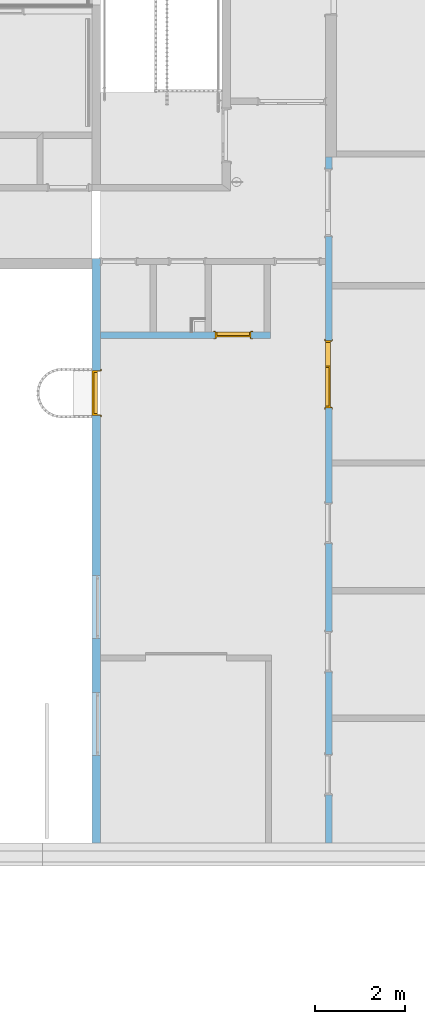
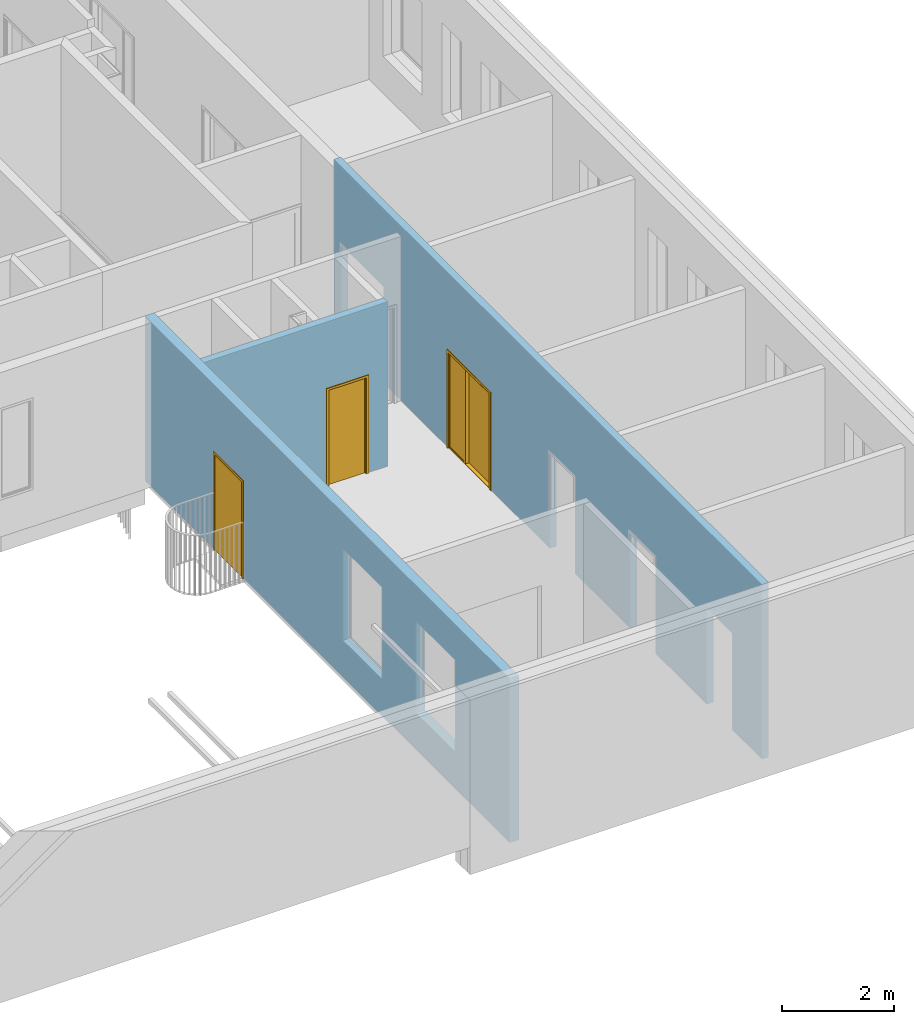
# One storey, part 55 of 100: 3 doors, 9 openings, plus 3 elements that do not belong to this part.
"""IFC2X3 building model written with IfcOpenShell, lengths in millimetres."""

from ifc_helpers import new_model, entity, si_unit, converted_unit, derived_unit, money_unit, direction, frame, origin_with_axes, origin_2d_with_axis, place, context, subcontext, project, spatial, polyline, rectangle, outline, extrude, open_shell, faceted_brep, surface_model, material, layer, layer_set, layer_usage, type_object, element, fill, save


model = new_model("IFC2X3")

# Units and contexts
model_context = context("Model", 3, precision=0.01, world=origin_with_axes(), true_north=direction((0.0, 1.0)))
body_context = subcontext(model_context, "Body", "Model", "MODEL_VIEW")
ifc_project = project(units=[si_unit("LENGTHUNIT", "METRE", prefix="MILLI"), si_unit("AREAUNIT", "SQUARE_METRE"), si_unit("VOLUMEUNIT", "CUBIC_METRE"), converted_unit("PLANEANGLEUNIT", "DEGREE", entity("IfcPlaneAngleMeasure", 0.0174532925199), si_unit("PLANEANGLEUNIT", "RADIAN"), dimensions=[0, 0, 0, 0, 0, 0, 0]), si_unit("SOLIDANGLEUNIT", "STERADIAN"), money_unit("EUR"), converted_unit("TIMEUNIT", "Year", entity("IfcTimeMeasure", 31556926.0), si_unit("TIMEUNIT", "SECOND"), dimensions=[0, 0, 1, 0, 0, 0, 0]), si_unit("MASSUNIT", "GRAM", prefix="KILO"), si_unit("THERMODYNAMICTEMPERATUREUNIT", "DEGREE_CELSIUS"), si_unit("LUMINOUSINTENSITYUNIT", "LUMEN"), si_unit("ENERGYUNIT", "JOULE", prefix="MEGA"), derived_unit("THERMALCONDUCTANCEUNIT", [(si_unit("POWERUNIT", "WATT"), 1), (si_unit("LENGTHUNIT", "METRE"), -1), (si_unit("THERMODYNAMICTEMPERATUREUNIT", "KELVIN"), -1)]), derived_unit("SPECIFICHEATCAPACITYUNIT", [(si_unit("ENERGYUNIT", "JOULE"), 1), (si_unit("MASSUNIT", "GRAM", prefix="KILO"), -1), (si_unit("THERMODYNAMICTEMPERATUREUNIT", "KELVIN"), -1)]), derived_unit("MASSDENSITYUNIT", [(si_unit("MASSUNIT", "GRAM", prefix="KILO"), 1), (si_unit("VOLUMEUNIT", "CUBIC_METRE"), -1)])], contexts=[model_context])

# Site, building, storey
site_placement = place(None, origin_with_axes())
site = spatial("IfcSite", under=ifc_project, at=site_placement, Name="Politse- ja Piirivalveameti ning Päästeameti ühishoone", CompositionType="ELEMENT")
building_placement = place(site_placement, origin_with_axes())
building = spatial("IfcBuilding", under=site, at=building_placement, Name="Politse- ja Piirivalveameti ning Päästeameti ühishoone", CompositionType="ELEMENT")
storey_placement = place(building_placement, frame((0.0, 0.0, 3800.0), z_axis=(0.0, 0.0, 1.0), x_axis=(1.0, 0.0, 0.0)))
storey = spatial("IfcBuildingStorey", under=building, at=storey_placement, Name="Teine korrus", CompositionType="ELEMENT", Elevation=3800.0)

# Wall, openings, door
ifc_material = material(Name="KON-05_Betoon Plokk - Konstuktsioon")
ifc_layer_1 = layer(ifc_material, 190.0, ventilated="UNKNOWN")
ifc_layer_set_1 = layer_set([ifc_layer_1], Name="SS-03_Sisesein 190")
ifc_layer_usage_1 = layer_usage(ifc_layer_set_1, "AXIS2", "POSITIVE", -190.0)
wall_type_1 = type_object("IfcWallType", Name="SS-03_Sisesein 190 190", PredefinedType="NOTDEFINED")
wall_1_placement = place(storey_placement, frame((60160.5519118, 13000.0198611, 0.0), z_axis=(0.0, 0.0, 1.0), x_axis=(0.0, -1.0, 0.0)))
wall_1 = element("IfcWallStandardCase", 1, at=wall_1_placement, inside=storey, type_object=wall_type_1, material=ifc_layer_usage_1, Name="SS-03", context=body_context, shape_type="SweptSolid", body=[
    extrude(outline(polyline([(0.0, -190.0), (13000.0198611, -190.0), (13000.0198611, 0.0), (0.0, 0.0), (0.0, -190.0)])), origin_with_axes(), (0.0, 0.0, 1.0), 3575.0),
])
opening_1_placement = place(wall_1_placement, frame((7758.22460403, 0.0, 800.0), z_axis=(0.0, 0.0, 1.0), x_axis=(1.0, 0.0, 0.0)))
element("IfcOpeningElement", 2, at=opening_1_placement, cuts=wall_1, Name="TA-02", context=body_context, shape_type="SweptSolid", body=[
    extrude(rectangle(XDim=1400.0, YDim=2000.0, at=origin_2d_with_axis()), frame((0.0, -110.0, 1000.0), z_axis=(0.0, 1.0, 0.0), x_axis=(-1.0, 0.0, 0.0)), (0.0, 0.0, 1.0), 300.0),
    extrude(rectangle(XDim=1400.0, YDim=2000.0, at=origin_2d_with_axis()), frame((0.0, -110.0, 1000.0), z_axis=(0.0, -1.0, 0.0), x_axis=(-1.0, 0.0, 0.0)), (0.0, 0.0, 1.0), 270.0),
])
opening_2_placement = place(wall_1_placement, frame((10358.4213478, 0.0, 800.0), z_axis=(0.0, 0.0, 1.0), x_axis=(1.0, 0.0, 0.0)))
element("IfcOpeningElement", 3, at=opening_2_placement, cuts=wall_1, Name="TA-02", context=body_context, shape_type="SweptSolid", body=[
    extrude(rectangle(XDim=1400.0, YDim=2000.0, at=origin_2d_with_axis()), frame((0.0, -110.0, 1000.0), z_axis=(0.0, 1.0, 0.0), x_axis=(-1.0, 0.0, 0.0)), (0.0, 0.0, 1.0), 300.0),
    extrude(rectangle(XDim=1400.0, YDim=2000.0, at=origin_2d_with_axis()), frame((0.0, -110.0, 1000.0), z_axis=(0.0, -1.0, 0.0), x_axis=(-1.0, 0.0, 0.0)), (0.0, 0.0, 1.0), 270.0),
])
opening_3_placement = place(wall_1_placement, frame((2996.3926058, 0.0, 0.0), z_axis=(0.0, 0.0, 1.0), x_axis=(1.0, 0.0, 0.0)))
opening_3 = element("IfcOpeningElement", 4, at=opening_3_placement, cuts=wall_1, Name="TU-01-9", context=body_context, shape_type="SweptSolid", body=[
    extrude(rectangle(XDim=1000.0, YDim=2100.0, at=origin_2d_with_axis()), frame((0.0, 190.0, 1050.0), z_axis=(0.0, -1.0, 0.0), x_axis=(-1.0, 0.0, 0.0)), (0.0, 0.0, 1.0), 570.0),
    extrude(rectangle(XDim=1074.0, YDim=2137.0, at=origin_2d_with_axis()), frame((0.0, 0.0, 1068.5), z_axis=(0.0, -1.0, 0.0), x_axis=(-1.0, 0.0, 0.0)), (0.0, 0.0, -1.0), 190.0),
    extrude(rectangle(XDim=1074.0, YDim=2137.0, at=origin_2d_with_axis()), frame((0.0, -190.0, 1068.5), z_axis=(0.0, 1.0, 0.0), x_axis=(-1.0, 0.0, 0.0)), (0.0, 0.0, -1.0), 190.0),
])
door_style_1 = type_object("IfcDoorStyle", Name="Double Door Asymmetric 23", ConstructionType="NOTDEFINED", OperationType="DOUBLE_DOOR_SINGLE_SWING", ParameterTakesPrecedence=False, Sizeable=False)
door_1_placement = place(opening_3_placement, frame((500.0, 0.0, 0.0), z_axis=(0.0, 0.0, 1.0), x_axis=(-1.0, 0.0, 0.0)))
door_1 = element("IfcDoor", 5, at=door_1_placement, inside=storey, type_object=door_style_1, Name="TU-01-9", ObjectType="DOOR", OverallHeight=2100.0, OverallWidth=1000.0, context=body_context, shape_type="Brep", body=[
    faceted_brep([(972.0, 150.0, 0.0), (972.0, 150.0, 12.0), (960.0, 150.0, 12.0), (960.0, 150.0, 0.0), (28.0, 150.0, 0.0), (28.0, 150.0, 12.0), (40.0, 150.0, 12.0), (40.0, 75.0, 12.0), (960.0, 75.0, 12.0), (960.0, 75.0, 0.0), (40.0, 75.0, 0.0), (40.0, 150.0, 0.0)], [[[0, 1, 2, 3]], [[4, 5, 1, 0]], [[1, 5, 6, 7, 8, 2]], [[3, 2, 8, 9]], [[0, 3, 9, 10, 11, 4]], [[11, 6, 5, 4]], [[10, 7, 6, 11]], [[9, 8, 7, 10]]]),
    faceted_brep([(0.0, 75.0, 0.0), (25.0, 75.0, 0.0), (25.0, 0.0, 0.0), (0.0, 0.0, 0.0), (0.0, 75.0, 2100.0), (25.0, 75.0, 2075.0), (25.0, 0.0, 2075.0), (0.0, 0.0, 2100.0)], [[[0, 1, 2, 3]], [[0, 4, 5, 1]], [[1, 5, 6, 2]], [[3, 2, 6, 7]], [[4, 0, 3, 7]], [[5, 4, 7, 6]]]),
    faceted_brep([(1000.0, 75.0, 2100.0), (975.0, 75.0, 2075.0), (975.0, 0.0, 2075.0), (1000.0, 0.0, 2100.0), (1000.0, 75.0, 0.0), (975.0, 75.0, 0.0), (975.0, 0.0, 0.0), (1000.0, 0.0, 0.0)], [[[0, 1, 2, 3]], [[0, 4, 5, 1]], [[1, 5, 6, 2]], [[3, 2, 6, 7]], [[4, 0, 3, 7]], [[5, 4, 7, 6]]]),
    faceted_brep([(25.0, 75.0, 2075.0), (975.0, 75.0, 2075.0), (975.0, 0.0, 2075.0), (25.0, 0.0, 2075.0), (0.0, 75.0, 2100.0), (1000.0, 75.0, 2100.0), (1000.0, 0.0, 2100.0), (0.0, 0.0, 2100.0)], [[[0, 1, 2, 3]], [[0, 4, 5, 1]], [[1, 5, 6, 2]], [[3, 2, 6, 7]], [[4, 0, 3, 7]], [[5, 4, 7, 6]]]),
    faceted_brep([(-37.0, -19.0, 0.0), (-37.0, 0.0, 0.0), (13.0, 0.0, 0.0), (13.0, -19.0, 0.0), (-37.0, -19.0, 2137.0), (-37.0, 0.0, 2137.0), (13.0, 0.0, 2087.0), (13.0, -19.0, 2087.0)], [[[0, 1, 2, 3]], [[4, 5, 1, 0]], [[1, 5, 6, 2]], [[3, 2, 6, 7]], [[0, 3, 7, 4]], [[7, 6, 5, 4]]]),
    faceted_brep([(1037.0, -19.0, 2137.0), (1037.0, 0.0, 2137.0), (987.0, 0.0, 2087.0), (987.0, -19.0, 2087.0), (1037.0, -19.0, 0.0), (1037.0, 0.0, 0.0), (987.0, 0.0, 0.0), (987.0, -19.0, 0.0)], [[[0, 1, 2, 3]], [[4, 5, 1, 0]], [[1, 5, 6, 2]], [[3, 2, 6, 7]], [[0, 3, 7, 4]], [[7, 6, 5, 4]]]),
    faceted_brep([(-37.0, -19.0, 2137.0), (-37.0, 0.0, 2137.0), (13.0, 0.0, 2087.0), (13.0, -19.0, 2087.0), (1037.0, -19.0, 2137.0), (1037.0, 0.0, 2137.0), (987.0, 0.0, 2087.0), (987.0, -19.0, 2087.0)], [[[0, 1, 2, 3]], [[4, 5, 1, 0]], [[1, 5, 6, 2]], [[3, 2, 6, 7]], [[0, 3, 7, 4]], [[7, 6, 5, 4]]]),
    faceted_brep([(-37.0, 209.0, 0.0), (13.0, 209.0, 0.0), (13.0, 190.0, 0.0), (-37.0, 190.0, 0.0), (-37.0, 209.0, 2137.0), (13.0, 209.0, 2087.0), (13.0, 190.0, 2087.0), (-37.0, 190.0, 2137.0)], [[[0, 1, 2, 3]], [[0, 4, 5, 1]], [[1, 5, 6, 2]], [[3, 2, 6, 7]], [[4, 0, 3, 7]], [[5, 4, 7, 6]]]),
    faceted_brep([(1037.0, 209.0, 2137.0), (987.0, 209.0, 2087.0), (987.0, 190.0, 2087.0), (1037.0, 190.0, 2137.0), (1037.0, 209.0, 0.0), (987.0, 209.0, 0.0), (987.0, 190.0, 0.0), (1037.0, 190.0, 0.0)], [[[0, 1, 2, 3]], [[0, 4, 5, 1]], [[1, 5, 6, 2]], [[3, 2, 6, 7]], [[4, 0, 3, 7]], [[5, 4, 7, 6]]]),
    faceted_brep([(-37.0, 209.0, 2137.0), (13.0, 209.0, 2087.0), (13.0, 190.0, 2087.0), (-37.0, 190.0, 2137.0), (1037.0, 209.0, 2137.0), (987.0, 209.0, 2087.0), (987.0, 190.0, 2087.0), (1037.0, 190.0, 2137.0)], [[[0, 1, 2, 3]], [[0, 4, 5, 1]], [[1, 5, 6, 2]], [[3, 2, 6, 7]], [[4, 0, 3, 7]], [[5, 4, 7, 6]]]),
    faceted_brep([(40.0, 150.0, 0.0), (40.0, 150.0, 2060.0), (40.0, 75.0, 2060.0), (40.0, 75.0, 0.0), (28.0, 150.0, 2060.0), (28.0, 150.0, 0.0), (28.0, 190.0, 2060.0), (0.0, 190.0, 2060.0), (0.0, 75.0, 2060.0), (0.0, 75.0, 0.0), (0.0, 190.0, 0.0), (28.0, 190.0, 0.0)], [[[0, 1, 2, 3]], [[4, 1, 0, 5]], [[4, 6, 7, 8, 2, 1]], [[3, 2, 8, 9]], [[5, 0, 3, 9, 10, 11]], [[6, 4, 5, 11]], [[6, 11, 10, 7]], [[10, 9, 8, 7]]]),
    faceted_brep([(972.0, 150.0, 2060.0), (960.0, 150.0, 2060.0), (960.0, 75.0, 2060.0), (1000.0, 75.0, 2060.0), (1000.0, 190.0, 2060.0), (972.0, 190.0, 2060.0), (972.0, 150.0, 0.0), (960.0, 150.0, 0.0), (960.0, 75.0, 0.0), (1000.0, 75.0, 0.0), (1000.0, 190.0, 0.0), (972.0, 190.0, 0.0)], [[[0, 1, 2, 3, 4, 5]], [[1, 0, 6, 7]], [[1, 7, 8, 2]], [[3, 2, 8, 9]], [[4, 3, 9, 10]], [[11, 5, 4, 10]], [[0, 5, 11, 6]], [[6, 11, 10, 9, 8, 7]]]),
    faceted_brep([(28.0, 190.0, 2072.0), (28.0, 190.0, 2060.0), (0.0, 190.0, 2060.0), (0.0, 190.0, 2100.0), (1000.0, 190.0, 2100.0), (1000.0, 190.0, 2060.0), (972.0, 190.0, 2060.0), (972.0, 190.0, 2072.0), (28.0, 150.0, 2072.0), (28.0, 150.0, 2060.0), (40.0, 150.0, 2060.0), (40.0, 75.0, 2060.0), (0.0, 75.0, 2060.0), (0.0, 75.0, 2100.0), (1000.0, 75.0, 2100.0), (1000.0, 75.0, 2060.0), (972.0, 150.0, 2060.0), (960.0, 75.0, 2060.0), (960.0, 150.0, 2060.0), (972.0, 150.0, 2072.0)], [[[0, 1, 2, 3, 4, 5, 6, 7]], [[1, 0, 8, 9]], [[9, 10, 11, 12, 2, 1]], [[2, 12, 13, 3]], [[3, 13, 14, 4]], [[4, 14, 15, 5]], [[16, 6, 5, 15, 17, 18]], [[7, 6, 16, 19]], [[0, 7, 19, 8]], [[16, 18, 10, 9, 8, 19]], [[10, 18, 17, 11]], [[17, 15, 14, 13, 12, 11]]]),
    faceted_brep([(972.0, 190.0, 0.0), (972.0, 150.0, 0.0), (500.0, 150.0, 0.0), (500.0, 190.0, 0.0), (972.0, 190.0, 2072.0), (972.0, 150.0, 2072.0), (500.0, 150.0, 2072.0), (500.0, 190.0, 2072.0)], [[[0, 1, 2, 3]], [[4, 5, 1, 0]], [[1, 5, 6, 2]], [[3, 2, 6, 7]], [[0, 3, 7, 4]], [[7, 6, 5, 4]]]),
    faceted_brep([(28.0, 190.0, 0.0), (500.0, 190.0, 0.0), (500.0, 150.0, 0.0), (28.0, 150.0, 0.0), (28.0, 190.0, 2072.0), (500.0, 190.0, 2072.0), (500.0, 150.0, 2072.0), (28.0, 150.0, 2072.0)], [[[0, 1, 2, 3]], [[0, 4, 5, 1]], [[1, 5, 6, 2]], [[3, 2, 6, 7]], [[4, 0, 3, 7]], [[5, 4, 7, 6]]]),
])
fill(opening_3, door_1)

# Wall, opening, door
ifc_layer_2 = layer(ifc_material, 140.0, ventilated="UNKNOWN")
ifc_layer_set_2 = layer_set([ifc_layer_2], Name="SS-02_Sisesein 140")
ifc_layer_usage_2 = layer_usage(ifc_layer_set_2, "AXIS2", "NEGATIVE", 0.0)
wall_type_2 = type_object("IfcWallType", Name="SS-02_Sisesein 140 140", PredefinedType="NOTDEFINED")
wall_2_placement = place(storey_placement, frame((60160.5519118, 11360.0198611, 0.0), z_axis=(0.0, 0.0, 1.0), x_axis=(1.0, 0.0, 0.0)))
wall_2 = element("IfcWallStandardCase", 6, at=wall_2_placement, inside=storey, type_object=wall_type_2, material=ifc_layer_usage_2, Name="SS-02", context=body_context, shape_type="SweptSolid", body=[
    extrude(outline(polyline([(0.0, -140.0), (3774.67926639, -140.0), (3774.67926639, 0.0), (0.0, 0.0), (0.0, -140.0)])), origin_with_axes(), (0.0, 0.0, 1.0), 3575.0),
])
opening_4_placement = place(wall_2_placement, frame((2944.91759723, 0.0, 0.0), z_axis=(0.0, 0.0, 1.0), x_axis=(1.0, 0.0, 0.0)))
opening_4 = element("IfcOpeningElement", 7, at=opening_4_placement, cuts=wall_2, Name="SU-02-1", context=body_context, shape_type="SweptSolid", body=[
    extrude(rectangle(XDim=800.0, YDim=2100.0, at=origin_2d_with_axis()), frame((0.0, -140.0, 1050.0), z_axis=(0.0, 1.0, 0.0), x_axis=(-1.0, 0.0, 0.0)), (0.0, 0.0, 1.0), 420.0),
    extrude(rectangle(XDim=874.0, YDim=2137.0, at=origin_2d_with_axis()), frame((0.0, -140.0, 1068.5), z_axis=(0.0, 1.0, 0.0), x_axis=(-1.0, 0.0, 0.0)), (0.0, 0.0, -1.0), 140.0),
    extrude(rectangle(XDim=874.0, YDim=2137.0, at=origin_2d_with_axis()), frame((0.0, 0.0, 1068.5), z_axis=(0.0, -1.0, 0.0), x_axis=(-1.0, 0.0, 0.0)), (0.0, 0.0, -1.0), 140.0),
])
door_style_2 = type_object("IfcDoorStyle", Name="Door 23", ConstructionType="NOTDEFINED", OperationType="SINGLE_SWING_RIGHT", ParameterTakesPrecedence=False, Sizeable=False)
door_2_placement = place(opening_4_placement, frame((400.0, 0.0, 0.0), z_axis=(0.0, 0.0, 1.0), x_axis=(-1.0, 0.0, 0.0)))
door_2 = element("IfcDoor", 8, at=door_2_placement, inside=storey, type_object=door_style_2, Name="SU-02-1", ObjectType="DOOR", OverallHeight=2100.0, OverallWidth=800.0, context=body_context, shape_type="Brep", body=[
    faceted_brep([(760.0, 0.0, 0.0), (760.0, 75.0, 0.0), (760.0, 75.0, 12.0), (760.0, 0.0, 12.0), (40.0, 0.0, 0.0), (40.0, 75.0, 0.0), (28.0, 75.0, 0.0), (772.0, 75.0, 0.0), (772.0, 75.0, 12.0), (28.0, 75.0, 12.0), (40.0, 75.0, 12.0), (40.0, 0.0, 12.0)], [[[0, 1, 2, 3]], [[0, 4, 5, 6, 7, 1]], [[1, 7, 8, 2]], [[3, 2, 8, 9, 10, 11]], [[4, 0, 3, 11]], [[5, 4, 11, 10]], [[6, 5, 10, 9]], [[7, 6, 9, 8]]]),
    faceted_brep([(0.0, 115.0, 0.0), (0.0, 140.0, 0.0), (25.0, 140.0, 0.0), (25.0, 115.0, 0.0), (0.0, 115.0, 2100.0), (0.0, 140.0, 2100.0), (25.0, 140.0, 2075.0), (25.0, 115.0, 2075.0)], [[[0, 1, 2, 3]], [[4, 5, 1, 0]], [[1, 5, 6, 2]], [[3, 2, 6, 7]], [[0, 3, 7, 4]], [[7, 6, 5, 4]]]),
    faceted_brep([(800.0, 115.0, 2100.0), (800.0, 140.0, 2100.0), (775.0, 140.0, 2075.0), (775.0, 115.0, 2075.0), (800.0, 115.0, 0.0), (800.0, 140.0, 0.0), (775.0, 140.0, 0.0), (775.0, 115.0, 0.0)], [[[0, 1, 2, 3]], [[4, 5, 1, 0]], [[1, 5, 6, 2]], [[3, 2, 6, 7]], [[0, 3, 7, 4]], [[7, 6, 5, 4]]]),
    faceted_brep([(25.0, 115.0, 2075.0), (25.0, 140.0, 2075.0), (775.0, 140.0, 2075.0), (775.0, 115.0, 2075.0), (0.0, 115.0, 2100.0), (0.0, 140.0, 2100.0), (800.0, 140.0, 2100.0), (800.0, 115.0, 2100.0)], [[[0, 1, 2, 3]], [[4, 5, 1, 0]], [[1, 5, 6, 2]], [[3, 2, 6, 7]], [[0, 3, 7, 4]], [[7, 6, 5, 4]]]),
    faceted_brep([(-37.0, 159.0, 0.0), (13.0, 159.0, 0.0), (13.0, 140.0, 0.0), (-37.0, 140.0, 0.0), (-37.0, 159.0, 2137.0), (13.0, 159.0, 2087.0), (13.0, 140.0, 2087.0), (-37.0, 140.0, 2137.0)], [[[0, 1, 2, 3]], [[0, 4, 5, 1]], [[1, 5, 6, 2]], [[3, 2, 6, 7]], [[4, 0, 3, 7]], [[5, 4, 7, 6]]]),
    faceted_brep([(837.0, 159.0, 2137.0), (787.0, 159.0, 2087.0), (787.0, 140.0, 2087.0), (837.0, 140.0, 2137.0), (837.0, 159.0, 0.0), (787.0, 159.0, 0.0), (787.0, 140.0, 0.0), (837.0, 140.0, 0.0)], [[[0, 1, 2, 3]], [[0, 4, 5, 1]], [[1, 5, 6, 2]], [[3, 2, 6, 7]], [[4, 0, 3, 7]], [[5, 4, 7, 6]]]),
    faceted_brep([(-37.0, 159.0, 2137.0), (13.0, 159.0, 2087.0), (13.0, 140.0, 2087.0), (-37.0, 140.0, 2137.0), (837.0, 159.0, 2137.0), (787.0, 159.0, 2087.0), (787.0, 140.0, 2087.0), (837.0, 140.0, 2137.0)], [[[0, 1, 2, 3]], [[0, 4, 5, 1]], [[1, 5, 6, 2]], [[3, 2, 6, 7]], [[4, 0, 3, 7]], [[5, 4, 7, 6]]]),
    faceted_brep([(-37.0, -19.0, 0.0), (-37.0, 0.0, 0.0), (13.0, 0.0, 0.0), (13.0, -19.0, 0.0), (-37.0, -19.0, 2137.0), (-37.0, 0.0, 2137.0), (13.0, 0.0, 2087.0), (13.0, -19.0, 2087.0)], [[[0, 1, 2, 3]], [[4, 5, 1, 0]], [[1, 5, 6, 2]], [[3, 2, 6, 7]], [[0, 3, 7, 4]], [[7, 6, 5, 4]]]),
    faceted_brep([(837.0, -19.0, 2137.0), (837.0, 0.0, 2137.0), (787.0, 0.0, 2087.0), (787.0, -19.0, 2087.0), (837.0, -19.0, 0.0), (837.0, 0.0, 0.0), (787.0, 0.0, 0.0), (787.0, -19.0, 0.0)], [[[0, 1, 2, 3]], [[4, 5, 1, 0]], [[1, 5, 6, 2]], [[3, 2, 6, 7]], [[0, 3, 7, 4]], [[7, 6, 5, 4]]]),
    faceted_brep([(-37.0, -19.0, 2137.0), (-37.0, 0.0, 2137.0), (13.0, 0.0, 2087.0), (13.0, -19.0, 2087.0), (837.0, -19.0, 2137.0), (837.0, 0.0, 2137.0), (787.0, 0.0, 2087.0), (787.0, -19.0, 2087.0)], [[[0, 1, 2, 3]], [[4, 5, 1, 0]], [[1, 5, 6, 2]], [[3, 2, 6, 7]], [[0, 3, 7, 4]], [[7, 6, 5, 4]]]),
    faceted_brep([(40.0, 75.0, 0.0), (40.0, 75.0, 2060.0), (40.0, 0.0, 2060.0), (40.0, 0.0, 0.0), (28.0, 75.0, 2060.0), (28.0, 75.0, 0.0), (28.0, 115.0, 2060.0), (0.0, 115.0, 2060.0), (0.0, 0.0, 2060.0), (0.0, 0.0, 0.0), (0.0, 115.0, 0.0), (28.0, 115.0, 0.0)], [[[0, 1, 2, 3]], [[4, 1, 0, 5]], [[4, 6, 7, 8, 2, 1]], [[3, 2, 8, 9]], [[5, 0, 3, 9, 10, 11]], [[6, 4, 5, 11]], [[6, 11, 10, 7]], [[10, 9, 8, 7]]]),
    faceted_brep([(772.0, 75.0, 2060.0), (760.0, 75.0, 2060.0), (760.0, 0.0, 2060.0), (800.0, 0.0, 2060.0), (800.0, 115.0, 2060.0), (772.0, 115.0, 2060.0), (772.0, 75.0, 0.0), (760.0, 75.0, 0.0), (760.0, 0.0, 0.0), (800.0, 0.0, 0.0), (800.0, 115.0, 0.0), (772.0, 115.0, 0.0)], [[[0, 1, 2, 3, 4, 5]], [[1, 0, 6, 7]], [[1, 7, 8, 2]], [[3, 2, 8, 9]], [[4, 3, 9, 10]], [[11, 5, 4, 10]], [[0, 5, 11, 6]], [[6, 11, 10, 9, 8, 7]]]),
    faceted_brep([(28.0, 115.0, 2072.0), (28.0, 115.0, 2060.0), (0.0, 115.0, 2060.0), (0.0, 115.0, 2100.0), (800.0, 115.0, 2100.0), (800.0, 115.0, 2060.0), (772.0, 115.0, 2060.0), (772.0, 115.0, 2072.0), (28.0, 75.0, 2072.0), (28.0, 75.0, 2060.0), (40.0, 75.0, 2060.0), (40.0, 0.0, 2060.0), (0.0, 0.0, 2060.0), (0.0, 0.0, 2100.0), (800.0, 0.0, 2100.0), (800.0, 0.0, 2060.0), (772.0, 75.0, 2060.0), (760.0, 0.0, 2060.0), (760.0, 75.0, 2060.0), (772.0, 75.0, 2072.0)], [[[0, 1, 2, 3, 4, 5, 6, 7]], [[1, 0, 8, 9]], [[9, 10, 11, 12, 2, 1]], [[2, 12, 13, 3]], [[3, 13, 14, 4]], [[4, 14, 15, 5]], [[16, 6, 5, 15, 17, 18]], [[7, 6, 16, 19]], [[0, 7, 19, 8]], [[16, 18, 10, 9, 8, 19]], [[10, 18, 17, 11]], [[17, 15, 14, 13, 12, 11]]]),
    faceted_brep([(772.0, 115.0, 0.0), (772.0, 75.0, 0.0), (28.0, 75.0, 0.0), (28.0, 115.0, 0.0), (772.0, 115.0, 2072.0), (772.0, 75.0, 2072.0), (28.0, 75.0, 2072.0), (28.0, 115.0, 2072.0)], [[[0, 1, 2, 3]], [[4, 5, 1, 0]], [[1, 5, 6, 2]], [[3, 2, 6, 7]], [[0, 3, 7, 4]], [[7, 6, 5, 4]]]),
])
fill(opening_4, door_2)

# Wall, openings, door
ifc_layer_usage_3 = layer_usage(ifc_layer_set_2, "AXIS2", "POSITIVE", 0.0)
wall_3_placement = place(storey_placement, frame((65160.5595507, 15250.0421528, 0.0), z_axis=(0.0, 0.0, 1.0), x_axis=(0.0, -1.0, 0.0)))
wall_3 = element("IfcWallStandardCase", 9, at=wall_3_placement, inside=storey, type_object=wall_type_2, material=ifc_layer_usage_3, Name="SS-02", context=body_context, shape_type="SweptSolid", body=[
    extrude(outline(polyline([(0.0, 0.0), (15250.0421528, 0.0), (15250.0421528, 140.0), (0.0, 140.0), (0.0, 0.0)])), origin_with_axes(), (0.0, 0.0, 1.0), 3800.0),
])
opening_5_placement = place(wall_3_placement, frame((1014.42866517, 0.0, 0.0), z_axis=(0.0, 0.0, 1.0), x_axis=(1.0, 0.0, 0.0)))
element("IfcOpeningElement", 10, at=opening_5_placement, cuts=wall_3, Name="SU-02-5", context=body_context, shape_type="SweptSolid", body=[
    extrude(rectangle(XDim=1500.0, YDim=2100.0, at=origin_2d_with_axis()), frame((0.0, 140.0, 1050.0), z_axis=(0.0, 1.0, 0.0), x_axis=(-1.0, 0.0, 0.0)), (0.0, 0.0, -1.0), 420.0),
    extrude(rectangle(XDim=1574.0, YDim=2137.0, at=origin_2d_with_axis()), frame((0.0, 140.0, 1068.5), z_axis=(0.0, 1.0, 0.0), x_axis=(-1.0, 0.0, 0.0)), (0.0, 0.0, 1.0), 140.0),
    extrude(rectangle(XDim=1574.0, YDim=2137.0, at=origin_2d_with_axis()), frame((0.0, 0.0, 1068.5), z_axis=(0.0, -1.0, 0.0), x_axis=(-1.0, 0.0, 0.0)), (0.0, 0.0, 1.0), 140.0),
])
opening_6_placement = place(wall_3_placement, frame((11000.3706528, 0.0, 0.0), z_axis=(0.0, 0.0, 1.0), x_axis=(1.0, 0.0, 0.0)))
element("IfcOpeningElement", 11, at=opening_6_placement, cuts=wall_3, Name="SU-02-2", context=body_context, shape_type="SweptSolid", body=[
    extrude(rectangle(XDim=900.0, YDim=2100.0, at=origin_2d_with_axis()), frame((0.0, 140.0, 1050.0), z_axis=(0.0, -1.0, 0.0), x_axis=(1.0, 0.0, 0.0)), (0.0, 0.0, 1.0), 420.0),
    extrude(rectangle(XDim=974.0, YDim=2137.0, at=origin_2d_with_axis()), frame((0.0, 140.0, 1068.5), z_axis=(0.0, -1.0, 0.0), x_axis=(1.0, 0.0, 0.0)), (0.0, 0.0, -1.0), 140.0),
    extrude(rectangle(XDim=974.0, YDim=2137.0, at=origin_2d_with_axis()), frame((0.0, 0.0, 1068.5), z_axis=(0.0, 1.0, 0.0), x_axis=(1.0, 0.0, 0.0)), (0.0, 0.0, -1.0), 140.0),
])
opening_7_placement = place(wall_3_placement, frame((13730.3806058, 0.0, 0.0), z_axis=(0.0, 0.0, 1.0), x_axis=(1.0, 0.0, 0.0)))
element("IfcOpeningElement", 12, at=opening_7_placement, cuts=wall_3, Name="SU-02-2", context=body_context, shape_type="SweptSolid", body=[
    extrude(rectangle(XDim=900.0, YDim=2100.0, at=origin_2d_with_axis()), frame((0.0, 140.0, 1050.0), z_axis=(0.0, -1.0, 0.0), x_axis=(1.0, 0.0, 0.0)), (0.0, 0.0, 1.0), 420.0),
    extrude(rectangle(XDim=974.0, YDim=2137.0, at=origin_2d_with_axis()), frame((0.0, 140.0, 1068.5), z_axis=(0.0, -1.0, 0.0), x_axis=(1.0, 0.0, 0.0)), (0.0, 0.0, -1.0), 140.0),
    extrude(rectangle(XDim=974.0, YDim=2137.0, at=origin_2d_with_axis()), frame((0.0, 0.0, 1068.5), z_axis=(0.0, 1.0, 0.0), x_axis=(1.0, 0.0, 0.0)), (0.0, 0.0, -1.0), 140.0),
])
opening_8_placement = place(wall_3_placement, frame((8140.14905416, 0.0, 0.0), z_axis=(0.0, 0.0, 1.0), x_axis=(1.0, 0.0, 0.0)))
element("IfcOpeningElement", 13, at=opening_8_placement, cuts=wall_3, Name="SU-02-2", context=body_context, shape_type="SweptSolid", body=[
    extrude(rectangle(XDim=900.0, YDim=2100.0, at=origin_2d_with_axis()), frame((0.0, 140.0, 1050.0), z_axis=(0.0, -1.0, 0.0), x_axis=(1.0, 0.0, 0.0)), (0.0, 0.0, 1.0), 420.0),
    extrude(rectangle(XDim=974.0, YDim=2137.0, at=origin_2d_with_axis()), frame((0.0, 140.0, 1068.5), z_axis=(0.0, -1.0, 0.0), x_axis=(1.0, 0.0, 0.0)), (0.0, 0.0, -1.0), 140.0),
    extrude(rectangle(XDim=974.0, YDim=2137.0, at=origin_2d_with_axis()), frame((0.0, 0.0, 1068.5), z_axis=(0.0, 1.0, 0.0), x_axis=(1.0, 0.0, 0.0)), (0.0, 0.0, -1.0), 140.0),
])
opening_9_placement = place(wall_3_placement, frame((4829.70432773, 0.0, 0.0), z_axis=(0.0, 0.0, 1.0), x_axis=(1.0, 0.0, 0.0)))
opening_9 = element("IfcOpeningElement", 14, at=opening_9_placement, cuts=wall_3, Name="SU-02-5", context=body_context, shape_type="SweptSolid", body=[
    extrude(rectangle(XDim=1500.0, YDim=2100.0, at=origin_2d_with_axis()), frame((0.0, 140.0, 1050.0), z_axis=(0.0, -1.0, 0.0), x_axis=(1.0, 0.0, 0.0)), (0.0, 0.0, 1.0), 420.0),
    extrude(rectangle(XDim=1574.0, YDim=2137.0, at=origin_2d_with_axis()), frame((0.0, 140.0, 1068.5), z_axis=(0.0, -1.0, 0.0), x_axis=(1.0, 0.0, 0.0)), (0.0, 0.0, -1.0), 140.0),
    extrude(rectangle(XDim=1574.0, YDim=2137.0, at=origin_2d_with_axis()), frame((0.0, 0.0, 1068.5), z_axis=(0.0, 1.0, 0.0), x_axis=(1.0, 0.0, 0.0)), (0.0, 0.0, -1.0), 140.0),
])
door_style_3 = type_object("IfcDoorStyle", Name="Door with Sidelight on Side 2 23", ConstructionType="NOTDEFINED", OperationType="NOTDEFINED", ParameterTakesPrecedence=False, Sizeable=False)
door_3_placement = place(opening_9_placement, frame((-750.0, 0.0, 0.0), z_axis=(0.0, 0.0, 1.0), x_axis=(1.0, 0.0, 0.0)))
door_3 = element("IfcDoor", 15, at=door_3_placement, inside=storey, type_object=door_style_3, Name="SU-02-5", ObjectType="DOOR", OverallHeight=2100.0, OverallWidth=1500.0, context=body_context, shape_type="SurfaceModel", body=[
    faceted_brep([(1460.0, 0.0, 0.0), (1460.0, 75.0, 0.0), (1460.0, 75.0, 12.0), (1460.0, 0.0, 12.0), (600.0, 0.0, 0.0), (600.0, 75.0, 0.0), (588.0, 75.0, 0.0), (1472.0, 75.0, 0.0), (1472.0, 75.0, 12.0), (588.0, 75.0, 12.0), (600.0, 75.0, 12.0), (600.0, 0.0, 12.0)], [[[0, 1, 2, 3]], [[0, 4, 5, 6, 7, 1]], [[1, 7, 8, 2]], [[3, 2, 8, 9, 10, 11]], [[4, 0, 3, 11]], [[5, 4, 11, 10]], [[6, 5, 10, 9]], [[7, 6, 9, 8]]]),
    faceted_brep([(0.0, 115.0, 0.0), (0.0, 140.0, 0.0), (25.0, 140.0, 0.0), (25.0, 115.0, 0.0), (0.0, 115.0, 2100.0), (0.0, 140.0, 2100.0), (25.0, 140.0, 2075.0), (25.0, 115.0, 2075.0)], [[[0, 1, 2, 3]], [[4, 5, 1, 0]], [[1, 5, 6, 2]], [[3, 2, 6, 7]], [[0, 3, 7, 4]], [[7, 6, 5, 4]]]),
    faceted_brep([(1500.0, 115.0, 2100.0), (1500.0, 140.0, 2100.0), (1475.0, 140.0, 2075.0), (1475.0, 115.0, 2075.0), (1500.0, 115.0, 0.0), (1500.0, 140.0, 0.0), (1475.0, 140.0, 0.0), (1475.0, 115.0, 0.0)], [[[0, 1, 2, 3]], [[4, 5, 1, 0]], [[1, 5, 6, 2]], [[3, 2, 6, 7]], [[0, 3, 7, 4]], [[7, 6, 5, 4]]]),
    faceted_brep([(25.0, 115.0, 2075.0), (25.0, 140.0, 2075.0), (1475.0, 140.0, 2075.0), (1475.0, 115.0, 2075.0), (0.0, 115.0, 2100.0), (0.0, 140.0, 2100.0), (1500.0, 140.0, 2100.0), (1500.0, 115.0, 2100.0)], [[[0, 1, 2, 3]], [[4, 5, 1, 0]], [[1, 5, 6, 2]], [[3, 2, 6, 7]], [[0, 3, 7, 4]], [[7, 6, 5, 4]]]),
    faceted_brep([(-37.0, 159.0, 0.0), (13.0, 159.0, 0.0), (13.0, 140.0, 0.0), (-37.0, 140.0, 0.0), (-37.0, 159.0, 2137.0), (13.0, 159.0, 2087.0), (13.0, 140.0, 2087.0), (-37.0, 140.0, 2137.0)], [[[0, 1, 2, 3]], [[0, 4, 5, 1]], [[1, 5, 6, 2]], [[3, 2, 6, 7]], [[4, 0, 3, 7]], [[5, 4, 7, 6]]]),
    faceted_brep([(1537.0, 159.0, 2137.0), (1487.0, 159.0, 2087.0), (1487.0, 140.0, 2087.0), (1537.0, 140.0, 2137.0), (1537.0, 159.0, 0.0), (1487.0, 159.0, 0.0), (1487.0, 140.0, 0.0), (1537.0, 140.0, 0.0)], [[[0, 1, 2, 3]], [[0, 4, 5, 1]], [[1, 5, 6, 2]], [[3, 2, 6, 7]], [[4, 0, 3, 7]], [[5, 4, 7, 6]]]),
    faceted_brep([(-37.0, 159.0, 2137.0), (13.0, 159.0, 2087.0), (13.0, 140.0, 2087.0), (-37.0, 140.0, 2137.0), (1537.0, 159.0, 2137.0), (1487.0, 159.0, 2087.0), (1487.0, 140.0, 2087.0), (1537.0, 140.0, 2137.0)], [[[0, 1, 2, 3]], [[0, 4, 5, 1]], [[1, 5, 6, 2]], [[3, 2, 6, 7]], [[4, 0, 3, 7]], [[5, 4, 7, 6]]]),
    faceted_brep([(-37.0, -19.0, 0.0), (-37.0, 0.0, 0.0), (13.0, 0.0, 0.0), (13.0, -19.0, 0.0), (-37.0, -19.0, 2137.0), (-37.0, 0.0, 2137.0), (13.0, 0.0, 2087.0), (13.0, -19.0, 2087.0)], [[[0, 1, 2, 3]], [[4, 5, 1, 0]], [[1, 5, 6, 2]], [[3, 2, 6, 7]], [[0, 3, 7, 4]], [[7, 6, 5, 4]]]),
    faceted_brep([(1537.0, -19.0, 2137.0), (1537.0, 0.0, 2137.0), (1487.0, 0.0, 2087.0), (1487.0, -19.0, 2087.0), (1537.0, -19.0, 0.0), (1537.0, 0.0, 0.0), (1487.0, 0.0, 0.0), (1487.0, -19.0, 0.0)], [[[0, 1, 2, 3]], [[4, 5, 1, 0]], [[1, 5, 6, 2]], [[3, 2, 6, 7]], [[0, 3, 7, 4]], [[7, 6, 5, 4]]]),
    faceted_brep([(-37.0, -19.0, 2137.0), (-37.0, 0.0, 2137.0), (13.0, 0.0, 2087.0), (13.0, -19.0, 2087.0), (1537.0, -19.0, 2137.0), (1537.0, 0.0, 2137.0), (1487.0, 0.0, 2087.0), (1487.0, -19.0, 2087.0)], [[[0, 1, 2, 3]], [[4, 5, 1, 0]], [[1, 5, 6, 2]], [[3, 2, 6, 7]], [[0, 3, 7, 4]], [[7, 6, 5, 4]]]),
    faceted_brep([(0.0, 115.0, 0.0), (40.0, 115.0, 0.0), (40.0, 0.0, 0.0), (0.0, 0.0, 0.0), (0.0, 115.0, 2060.0), (40.0, 115.0, 2060.0), (40.0, 115.0, 40.0), (40.0, 0.0, 40.0), (40.0, 0.0, 2060.0), (0.0, 0.0, 2060.0)], [[[0, 1, 2, 3]], [[0, 4, 5, 6, 1]], [[1, 6, 7, 2]], [[3, 2, 7, 8, 9]], [[4, 0, 3, 9]], [[5, 4, 9, 8]], [[6, 5, 8, 7]]]),
    faceted_brep([(600.0, 75.0, 0.0), (600.0, 75.0, 2060.0), (600.0, 0.0, 2060.0), (600.0, 0.0, 0.0), (588.0, 75.0, 2060.0), (588.0, 75.0, 0.0), (588.0, 115.0, 2060.0), (560.0, 115.0, 2060.0), (560.0, 0.0, 2060.0), (560.0, 0.0, 0.0), (560.0, 0.0, 40.0), (560.0, 115.0, 0.0), (588.0, 115.0, 0.0), (560.0, 115.0, 40.0)], [[[0, 1, 2, 3]], [[4, 1, 0, 5]], [[4, 6, 7, 8, 2, 1]], [[9, 3, 2, 8, 10]], [[5, 0, 3, 9, 11, 12]], [[6, 4, 5, 12]], [[6, 12, 11, 13, 7]], [[13, 10, 8, 7]], [[11, 9, 10, 13]]]),
    faceted_brep([(40.0, 115.0, 40.0), (40.0, 115.0, 0.0), (40.0, 0.0, 0.0), (40.0, 0.0, 40.0), (560.0, 115.0, 40.0), (560.0, 115.0, 0.0), (560.0, 0.0, 0.0), (560.0, 0.0, 40.0)], [[[0, 1, 2, 3]], [[0, 4, 5, 1]], [[1, 5, 6, 2]], [[3, 2, 6, 7]], [[4, 0, 3, 7]], [[5, 4, 7, 6]]]),
    faceted_brep([(1472.0, 75.0, 2060.0), (1460.0, 75.0, 2060.0), (1460.0, 0.0, 2060.0), (1500.0, 0.0, 2060.0), (1500.0, 115.0, 2060.0), (1472.0, 115.0, 2060.0), (1472.0, 75.0, 0.0), (1460.0, 75.0, 0.0), (1460.0, 0.0, 0.0), (1500.0, 0.0, 0.0), (1500.0, 115.0, 0.0), (1472.0, 115.0, 0.0)], [[[0, 1, 2, 3, 4, 5]], [[1, 0, 6, 7]], [[1, 7, 8, 2]], [[3, 2, 8, 9]], [[4, 3, 9, 10]], [[11, 5, 4, 10]], [[0, 5, 11, 6]], [[6, 11, 10, 9, 8, 7]]]),
    faceted_brep([(588.0, 115.0, 2072.0), (588.0, 115.0, 2060.0), (560.0, 115.0, 2060.0), (40.0, 115.0, 2060.0), (0.0, 115.0, 2060.0), (0.0, 115.0, 2100.0), (1500.0, 115.0, 2100.0), (1500.0, 115.0, 2060.0), (1472.0, 115.0, 2060.0), (1472.0, 115.0, 2072.0), (588.0, 75.0, 2072.0), (588.0, 75.0, 2060.0), (1460.0, 75.0, 2060.0), (1460.0, 0.0, 2060.0), (600.0, 0.0, 2060.0), (560.0, 0.0, 2060.0), (40.0, 0.0, 2060.0), (0.0, 0.0, 2060.0), (0.0, 0.0, 2100.0), (1500.0, 0.0, 2100.0), (1500.0, 0.0, 2060.0), (1472.0, 75.0, 2060.0), (1472.0, 75.0, 2072.0)], [[[0, 1, 2, 3, 4, 5, 6, 7, 8, 9]], [[1, 0, 10, 11]], [[11, 12, 13, 14, 15, 2, 1]], [[2, 15, 16, 3]], [[3, 16, 17, 4]], [[4, 17, 18, 5]], [[5, 18, 19, 6]], [[6, 19, 20, 7]], [[21, 8, 7, 20, 13, 12]], [[9, 8, 21, 22]], [[0, 9, 22, 10]], [[21, 12, 11, 10, 22]], [[13, 20, 19, 18, 17, 16, 15, 14]]]),
    faceted_brep([(1472.0, 115.0, 0.0), (1472.0, 75.0, 0.0), (588.0, 75.0, 0.0), (588.0, 115.0, 0.0), (1472.0, 115.0, 2072.0), (1472.0, 75.0, 2072.0), (588.0, 75.0, 2072.0), (588.0, 115.0, 2072.0)], [[[0, 1, 2, 3]], [[4, 5, 1, 0]], [[1, 5, 6, 2]], [[3, 2, 6, 7]], [[0, 3, 7, 4]], [[7, 6, 5, 4]]]),
    surface_model("IfcShellBasedSurfaceModel", [(40.0, 24.0, 40.0), (40.0, 24.0, 2060.0), (560.0, 24.0, 2060.0), (560.0, 24.0, 40.0)], [open_shell([[[0, 1, 2, 3]]])]),
    surface_model("IfcShellBasedSurfaceModel", [(40.0, 12.0, 40.0), (560.0, 12.0, 40.0), (560.0, 12.0, 2060.0), (40.0, 12.0, 2060.0)], [open_shell([[[0, 1, 2, 3]]])]),
])
fill(opening_9, door_3)

save(model, "model.ifc")
